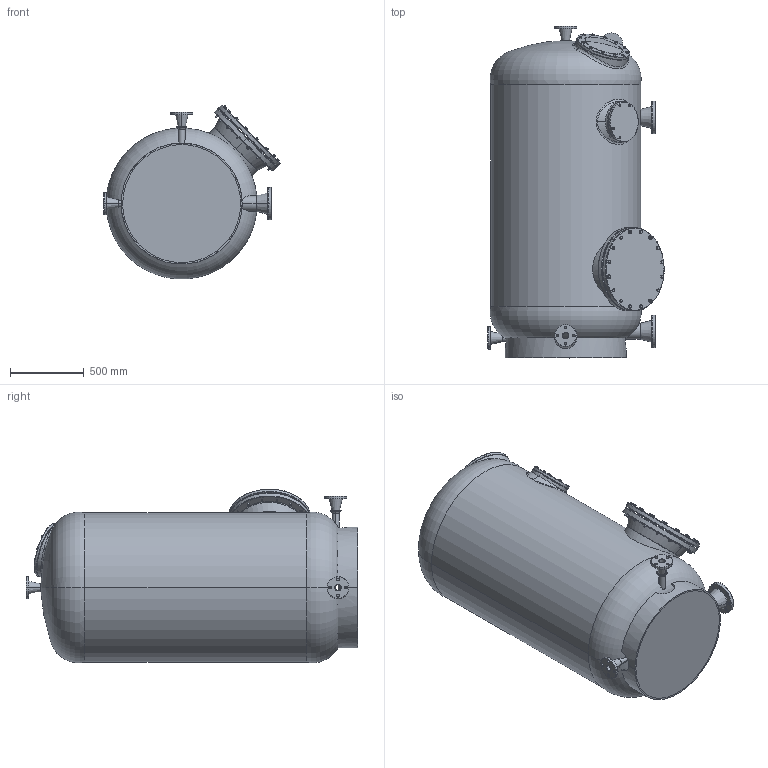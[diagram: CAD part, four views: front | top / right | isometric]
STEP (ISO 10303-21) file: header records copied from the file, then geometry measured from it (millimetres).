
FILE_DESCRIPTION (( 'STEP AP214' ), '1' );
FILE_NAME ('mediterran100c_.STEP', '2020-11-03T10:55:54', ( '' ), ( '' ), 'SwSTEP 2.0', 'SolidWorks 2019', '' );
FILE_SCHEMA (( 'AUTOMOTIVE_DESIGN' ));
Length unit declared in the file: millimetre
Products named in the file (1): mediterran100c_
Bounding box: 1195.83 x 2249.93 x 1178.47 mm (x, y, z)
Surface area: 10895804.8 mm2 (no closed solid volume)
Topology: 0 solids, 75 shells, 790 faces, 1896 edges, 1156 vertices
Faces by surface type: plane 299, cone 236, cylinder 163, torus 80, sphere 6, bspline 6
Entity records: 53940 total; most frequent: CARTESIAN_POINT 30237, ORIENTED_EDGE 3382, DIRECTION 2121, EDGE_CURVE 1896, B_SPLINE_CURVE_WITH_KNOTS 1577, VERTEX_POINT 1156, AXIS2_PLACEMENT_3D 1017, EDGE_LOOP 861
